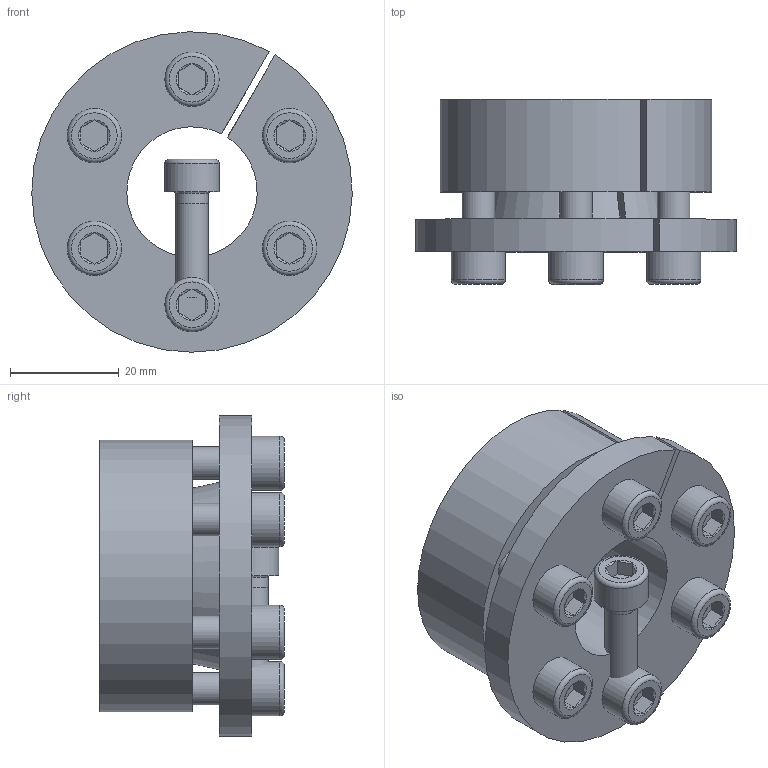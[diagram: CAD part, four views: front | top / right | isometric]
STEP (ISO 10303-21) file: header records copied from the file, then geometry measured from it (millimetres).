
FILE_DESCRIPTION( ( 'Unknown' ), '1' );
FILE_NAME( 'C:/Dokumente und Einstellungen/Sven/Desktop/homepage/cad - homepage/KBS16/KBS 16 - 24 x 50.stp', 'Unknown', ( 'Unknown' ), ( 'Unknown' ), 'XStep 1.0', 'Unknown', ' ' );
FILE_SCHEMA( ( 'automotive_design' ) );
Length unit declared in the file: millimetre
Products named in the file (3): Assem1; KBS 16 - 24 x 50; ISO EN DIN 4762 M6x20
Bounding box: 59 x 34 x 59 mm (x, y, z)
Volume: 80705.7 mm3; surface area: 36839 mm2
Topology: 9 solids, 9 shells, 223 faces, 445 edges, 268 vertices
Faces by surface type: plane 98, cylinder 58, cone 53, torus 14
Full cylindrical faces by diameter (mm): 5 x7, 6 x38, 10 x7
Entity records: 1626 total; most frequent: CARTESIAN_POINT 271, DIRECTION 244, ORIENTED_EDGE 178, AXIS2_PLACEMENT_3D 108, EDGE_LOOP 96, EDGE_CURVE 89, FACE_OUTER_BOUND 67, VERTEX_POINT 67
